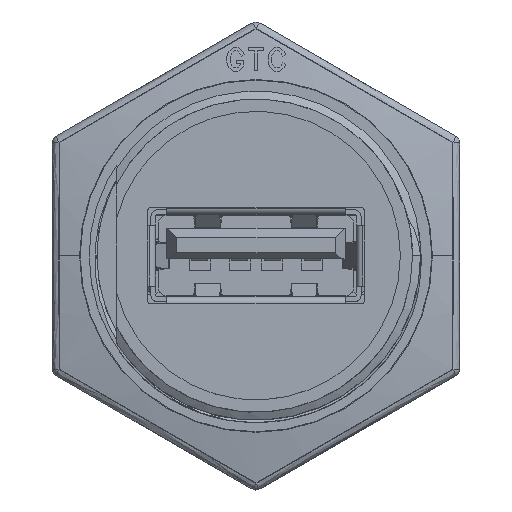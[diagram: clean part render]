
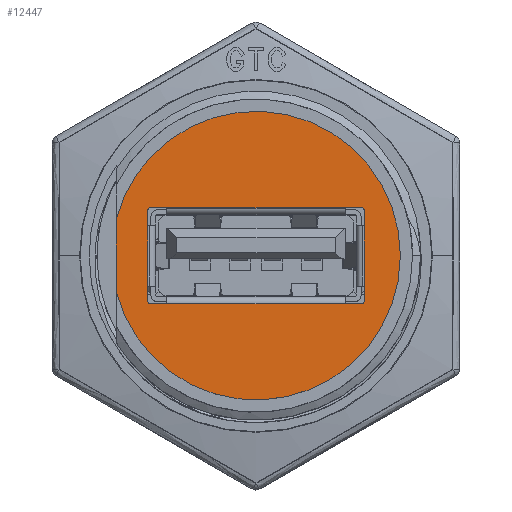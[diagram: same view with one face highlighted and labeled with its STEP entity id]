
A CAD part, top view. The second image highlights one B-rep face of the part: STEP entity #12447.
In plain terms, the highlighted planar face has unit normal (0, 0, 1).
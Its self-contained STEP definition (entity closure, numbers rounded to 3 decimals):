
#10884 = AXIS2_PLACEMENT_3D ( 'NONE', #22945, #22949, #22950 ) ;
#11591 = CARTESIAN_POINT ( 'NONE',  ( -8.7, -2.304, 0. ) ) ;
#11721 = CARTESIAN_POINT ( 'NONE',  ( 9., 0., 0. ) ) ;
#11768 = CARTESIAN_POINT ( 'NONE',  ( 6.55, -3., 0. ) ) ;
#11777 = CARTESIAN_POINT ( 'NONE',  ( 6.55, 3., 0. ) ) ;
#11778 = CARTESIAN_POINT ( 'NONE',  ( 6.75, -2.8, 0. ) ) ;
#11779 = CARTESIAN_POINT ( 'NONE',  ( 6.75, 2.8, 0. ) ) ;
#11780 = CARTESIAN_POINT ( 'NONE',  ( -6.55, 3., 0. ) ) ;
#11782 = CARTESIAN_POINT ( 'NONE',  ( -6.55, -3., 0. ) ) ;
#11783 = CARTESIAN_POINT ( 'NONE',  ( -8.7, 2.304, 0. ) ) ;
#11784 = CARTESIAN_POINT ( 'NONE',  ( -6.75, 2.8, 0. ) ) ;
#11786 = CARTESIAN_POINT ( 'NONE',  ( -6.75, -2.8, 0. ) ) ;
#12447 = ADVANCED_FACE ( 'NONE', ( #54237, #54232 ), #34695, .F. ) ;
#12565 = EDGE_CURVE ( 'NONE', #33475, #33473, #33907, .T. ) ;
#12566 = EDGE_CURVE ( 'NONE', #33473, #33476, #40125, .T. ) ;
#12567 = EDGE_CURVE ( 'NONE', #33474, #33475, #40128, .T. ) ;
#12568 = EDGE_CURVE ( 'NONE', #33464, #33474, #33908, .T. ) ;
#12569 = EDGE_CURVE ( 'NONE', #33478, #33464, #40134, .T. ) ;
#12570 = EDGE_CURVE ( 'NONE', #33482, #33478, #33909, .T. ) ;
#12571 = EDGE_CURVE ( 'NONE', #33480, #33482, #40140, .T. ) ;
#12572 = EDGE_CURVE ( 'NONE', #33476, #33480, #33910, .T. ) ;
#12573 = EDGE_CURVE ( 'NONE', #33417, #33479, #33911, .T. ) ;
#12574 = EDGE_CURVE ( 'NONE', #33287, #33479, #40149, .T. ) ;
#12612 = EDGE_LOOP ( 'NONE', ( #25050, #25052, #25051, #25053, #25054, #25055, #25056, #25057 ) ) ;
#12613 = EDGE_LOOP ( 'NONE', ( #25060, #25059, #25058 ) ) ;
#20966 = AXIS2_PLACEMENT_3D ( 'NONE', #40139, #40143, #40144 ) ;
#20969 = AXIS2_PLACEMENT_3D ( 'NONE', #40121, #40122, #40123 ) ;
#20970 = VECTOR ( 'NONE', #40130, 1000. ) ;
#20971 = AXIS2_PLACEMENT_3D ( 'NONE', #40133, #40137, #40138 ) ;
#20973 = VECTOR ( 'NONE', #40127, 1000. ) ;
#20975 = AXIS2_PLACEMENT_3D ( 'NONE', #40124, #40131, #40132 ) ;
#20976 = VECTOR ( 'NONE', #40136, 1000. ) ;
#20977 = AXIS2_PLACEMENT_3D ( 'NONE', #40145, #40146, #40147 ) ;
#20978 = VECTOR ( 'NONE', #40142, 1000. ) ;
#22945 = CARTESIAN_POINT ( 'NONE',  ( 0., 0., 0. ) ) ;
#22949 = DIRECTION ( 'NONE',  ( 0., 0., 1. ) ) ;
#22950 = DIRECTION ( 'NONE',  ( 1., 0., 0. ) ) ;
#24034 = VECTOR ( 'NONE', #40151, 1000. ) ;
#25050 = ORIENTED_EDGE ( 'NONE', *, *, #12566, .F. ) ;
#25051 = ORIENTED_EDGE ( 'NONE', *, *, #12567, .F. ) ;
#25052 = ORIENTED_EDGE ( 'NONE', *, *, #12565, .F. ) ;
#25053 = ORIENTED_EDGE ( 'NONE', *, *, #12568, .F. ) ;
#25054 = ORIENTED_EDGE ( 'NONE', *, *, #12569, .F. ) ;
#25055 = ORIENTED_EDGE ( 'NONE', *, *, #12570, .F. ) ;
#25056 = ORIENTED_EDGE ( 'NONE', *, *, #12571, .F. ) ;
#25057 = ORIENTED_EDGE ( 'NONE', *, *, #12572, .F. ) ;
#25058 = ORIENTED_EDGE ( 'NONE', *, *, #12574, .F. ) ;
#25059 = ORIENTED_EDGE ( 'NONE', *, *, #12573, .T. ) ;
#25060 = ORIENTED_EDGE ( 'NONE', *, *, #54106, .T. ) ;
#33287 = VERTEX_POINT ( 'NONE', #11591 ) ;
#33417 = VERTEX_POINT ( 'NONE', #11721 ) ;
#33464 = VERTEX_POINT ( 'NONE', #11768 ) ;
#33473 = VERTEX_POINT ( 'NONE', #11777 ) ;
#33474 = VERTEX_POINT ( 'NONE', #11778 ) ;
#33475 = VERTEX_POINT ( 'NONE', #11779 ) ;
#33476 = VERTEX_POINT ( 'NONE', #11780 ) ;
#33478 = VERTEX_POINT ( 'NONE', #11782 ) ;
#33479 = VERTEX_POINT ( 'NONE', #11783 ) ;
#33480 = VERTEX_POINT ( 'NONE', #11784 ) ;
#33482 = VERTEX_POINT ( 'NONE', #11786 ) ;
#33907 = CIRCLE ( 'NONE', #20969, 0.2 ) ;
#33908 = CIRCLE ( 'NONE', #20975, 0.2 ) ;
#33909 = CIRCLE ( 'NONE', #20971, 0.2 ) ;
#33910 = CIRCLE ( 'NONE', #20966, 0.2 ) ;
#33911 = CIRCLE ( 'NONE', #20977, 9. ) ;
#34217 = CIRCLE ( 'NONE', #10884, 9. ) ;
#34695 = PLANE ( 'NONE',  #54230 ) ;
#34696 = CARTESIAN_POINT ( 'NONE',  ( 0., 0., 0. ) ) ;
#34697 = DIRECTION ( 'NONE',  ( 0., 0., -1. ) ) ;
#34698 = DIRECTION ( 'NONE',  ( -1., 0., 0. ) ) ;
#40121 = CARTESIAN_POINT ( 'NONE',  ( 6.55, 2.8, 0. ) ) ;
#40122 = DIRECTION ( 'NONE',  ( 0., 0., 1. ) ) ;
#40123 = DIRECTION ( 'NONE',  ( -1., 0., 0. ) ) ;
#40124 = CARTESIAN_POINT ( 'NONE',  ( 6.55, -2.8, 0. ) ) ;
#40125 = LINE ( 'NONE', #40126, #20973 ) ;
#40126 = CARTESIAN_POINT ( 'NONE',  ( -6.55, 3., 0. ) ) ;
#40127 = DIRECTION ( 'NONE',  ( -1., 0., 0. ) ) ;
#40128 = LINE ( 'NONE', #40129, #20970 ) ;
#40129 = CARTESIAN_POINT ( 'NONE',  ( 6.75, 2.8, 0. ) ) ;
#40130 = DIRECTION ( 'NONE',  ( 0., 1., 0. ) ) ;
#40131 = DIRECTION ( 'NONE',  ( 0., 0., 1. ) ) ;
#40132 = DIRECTION ( 'NONE',  ( 1., 0., 0. ) ) ;
#40133 = CARTESIAN_POINT ( 'NONE',  ( -6.55, -2.8, 0. ) ) ;
#40134 = LINE ( 'NONE', #40135, #20976 ) ;
#40135 = CARTESIAN_POINT ( 'NONE',  ( -6.55, -3., 0. ) ) ;
#40136 = DIRECTION ( 'NONE',  ( 1., 0., 0. ) ) ;
#40137 = DIRECTION ( 'NONE',  ( 0., 0., 1. ) ) ;
#40138 = DIRECTION ( 'NONE',  ( -1., 0., 0. ) ) ;
#40139 = CARTESIAN_POINT ( 'NONE',  ( -6.55, 2.8, 0. ) ) ;
#40140 = LINE ( 'NONE', #40141, #20978 ) ;
#40141 = CARTESIAN_POINT ( 'NONE',  ( -6.75, 2.8, 0. ) ) ;
#40142 = DIRECTION ( 'NONE',  ( 0., -1., 0. ) ) ;
#40143 = DIRECTION ( 'NONE',  ( 0., 0., 1. ) ) ;
#40144 = DIRECTION ( 'NONE',  ( 1., 0., 0. ) ) ;
#40145 = CARTESIAN_POINT ( 'NONE',  ( 0., 0., 0. ) ) ;
#40146 = DIRECTION ( 'NONE',  ( 0., 0., 1. ) ) ;
#40147 = DIRECTION ( 'NONE',  ( 1., 0., 0. ) ) ;
#40149 = LINE ( 'NONE', #40150, #24034 ) ;
#40150 = CARTESIAN_POINT ( 'NONE',  ( -8.7, 11.972, 0. ) ) ;
#40151 = DIRECTION ( 'NONE',  ( 0., 1., 0. ) ) ;
#54106 = EDGE_CURVE ( 'NONE', #33287, #33417, #34217, .T. ) ;
#54230 = AXIS2_PLACEMENT_3D ( 'NONE', #34696, #34697, #34698 ) ;
#54232 = FACE_OUTER_BOUND ( 'NONE', #12613, .T. ) ;
#54237 = FACE_BOUND ( 'NONE', #12612, .T. ) ;
